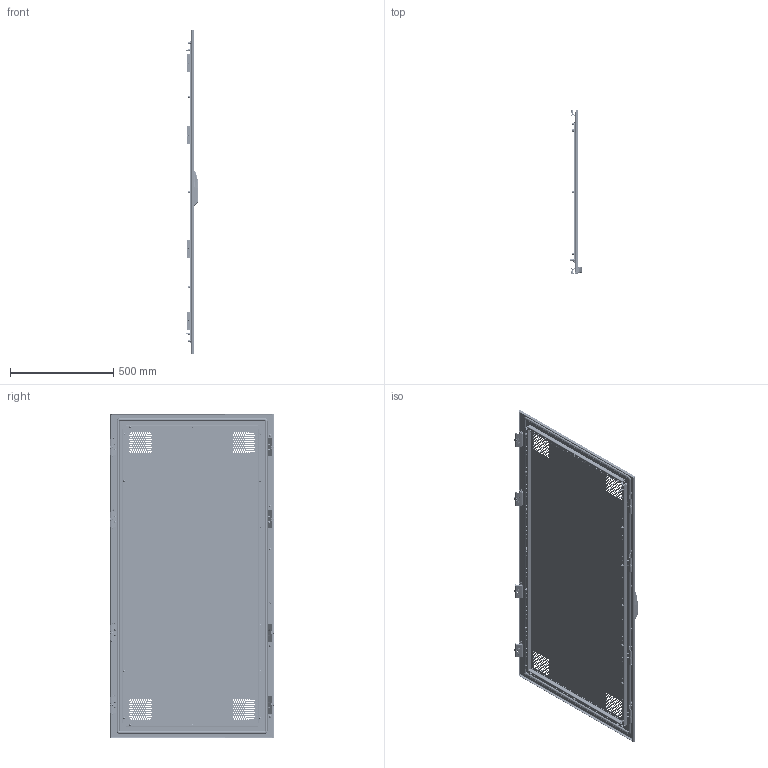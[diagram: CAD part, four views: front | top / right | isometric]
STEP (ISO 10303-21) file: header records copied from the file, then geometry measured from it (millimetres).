
FILE_DESCRIPTION(('STEP AP203'), '1');
FILE_NAME('3410.Ï Äâåðü ïåðôîðèðîâàííàÿ ÑÁ', '', ('UNSPECIFIED'), ('UNSPECIFIED'), 'C3D Converter', 'C3D Toolkit', '');
FILE_SCHEMA(('CONFIG_CONTROL_DESIGN'));
Length unit declared in the file: millimetre
Products named in the file (29): 3410.П.160.80 СБ; 3420.П; 3423; 3422.01; 3412; 3411; 868-000A_ASM; 868-000B; 868-000C; TS003-3; TS003-2; ёЗ豹X2\0435\X0\; 3009.05; 3009.05.01; 3622.01; 3009.08; 3009.08.01
Assembly tree (132 placements, depth 4):
  3410.П.160.80 СБ
    3420.П
      3423
      3422.01  x4
      (unnamed)  x18
      (unnamed)  x8
      (unnamed)  x2
    3412  x2
    3411  x2
    (unnamed)  x4
    (unnamed)  x20
    (unnamed)  x28
    (unnamed)  x8
    (unnamed)
      868-000A_ASM
        868-000B
        868-000C
        TS003-3
        TS003-2
        ёЗ豹X2\0435\X0\
      TS003-2
    (unnamed)  x2
    3009.05  x4
      3009.05.01
      (unnamed)
      (unnamed)
    3622.01  x4
    (unnamed)  x4
    3009.08  x4
      3009.08.01
      (unnamed)
      (unnamed)
Bounding box: 59.5 x 797.03 x 1571 mm (x, y, z)
Volume: 2596288.8 mm3; surface area: 3632627.3 mm2
Topology: 147 solids, 147 shells, 5057 faces, 12872 edges, 8320 vertices
Faces by surface type: plane 2676, cylinder 1510, cone 582, bspline 191, torus 87, sphere 11
Full cylindrical faces by diameter (mm): 0.5 x28, 4.134 x8, 4.3 x2, 4.5 x144, 4.917 x28, 5 x24, 5.2 x2, 5.8 x8, 6 x40, 6.1 x4, 6.6 x28, 6.75 x28, 7 x8, 7.3 x28, 7.5 x28, 8 x440, 8.3 x16, 8.5 x2, 9.2 x18, 10 x29, 10.5 x4, 12 x32, 13 x1, 15 x1, 20.7 x2, 21 x1
Entity records: 85426 total; most frequent: CARTESIAN_POINT 33443, DIRECTION 9106, ORIENTED_EDGE 8634, EDGE_CURVE 4317, AXIS2_PLACEMENT_3D 3623, EDGE_LOOP 3609, VERTEX_POINT 3140, FACE_BOUND 2395
